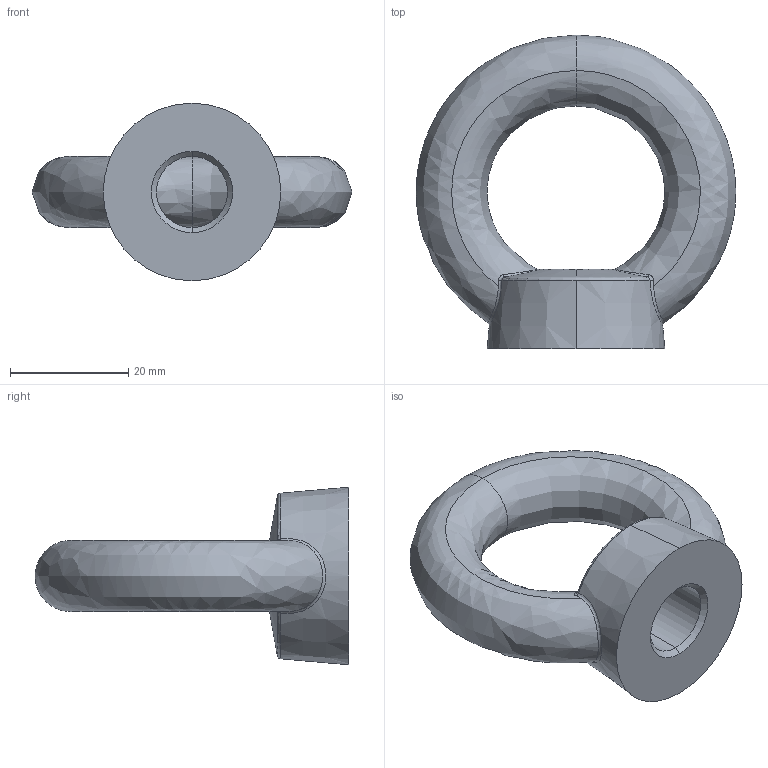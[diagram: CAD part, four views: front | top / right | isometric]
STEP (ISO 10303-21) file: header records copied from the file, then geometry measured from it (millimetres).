
FILE_DESCRIPTION (( 'STEP AP203' ), '1' );
FILE_NAME ('P4041.120-ZP.step', '2023-04-16T07:59:29', ( '' ), ( '' ), 'SwSTEP 2.0', 'SolidWorks 2019', '' );
FILE_SCHEMA (( 'CONFIG_CONTROL_DESIGN' ));
Length unit declared in the file: millimetre
Products named in the file (1): P4041.120-ZP
Bounding box: 53.99 x 52.99 x 30 mm (x, y, z)
Volume: 18527.2 mm3; surface area: 6371.7 mm2
Topology: 1 solids, 1 shells, 24 faces, 59 edges, 34 vertices
Faces by surface type: bspline 12, cone 6, torus 3, cylinder 2, plane 1
Entity records: 3129 total; most frequent: CARTESIAN_POINT 2564, ORIENTED_EDGE 118, DIRECTION 84, EDGE_CURVE 59, AXIS2_PLACEMENT_3D 38, VERTEX_POINT 34, CIRCLE 25, EDGE_LOOP 25
